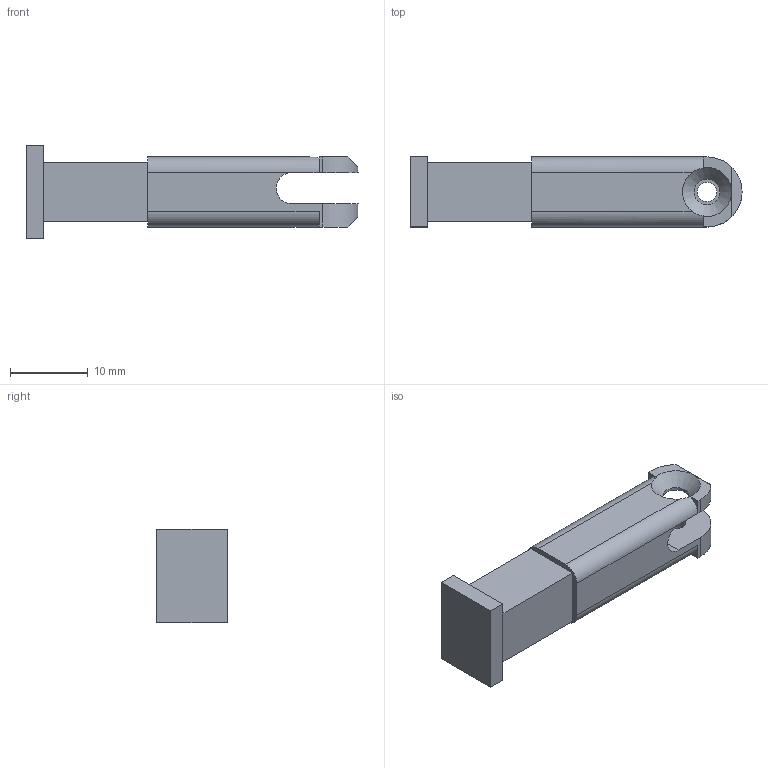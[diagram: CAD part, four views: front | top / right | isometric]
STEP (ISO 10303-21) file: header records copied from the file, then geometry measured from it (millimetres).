
FILE_DESCRIPTION(('Open CASCADE Model'),'2;1');
FILE_NAME('Open CASCADE Shape Model','2026-11-07T04:41:26',('Author'),( 'Open CASCADE'),'Open CASCADE STEP processor 8.0','build123d', 'Unknown');
FILE_SCHEMA(('AUTOMOTIVE_DESIGN { 1 0 10303 214 1 1 1 1 }'));
Length unit declared in the file: millimetre
Products named in the file (1): COMPOUND
Bounding box: 42.62 x 9 x 12 mm (x, y, z)
Volume: 2664.3 mm3; surface area: 1702.1 mm2
Topology: 1 solids, 1 shells, 36 faces, 94 edges, 61 vertices
Faces by surface type: plane 26, cylinder 9, cone 1
Full cylindrical faces by diameter (mm): 2.5 x1, 3.3 x1
Entity records: 2453 total; most frequent: CARTESIAN_POINT 600, DIRECTION 333, LINE 191, VECTOR 191, ORIENTED_EDGE 188, PCURVE 188, DEFINITIONAL_REPRESENTATION 188, EDGE_CURVE 94
